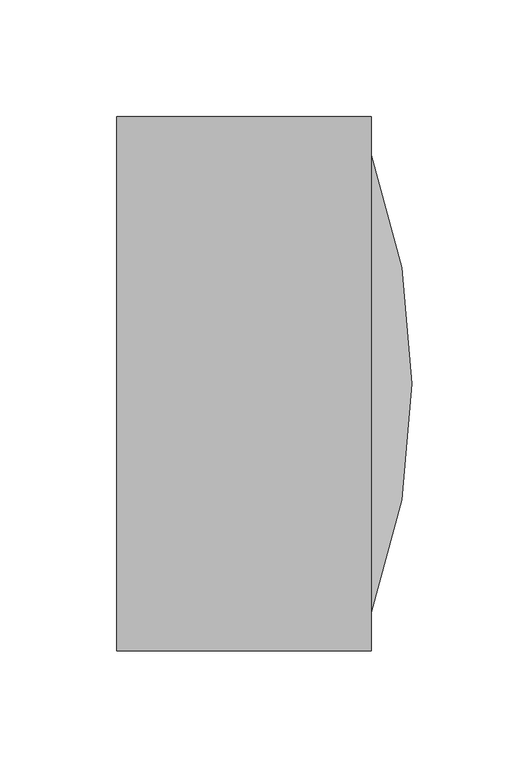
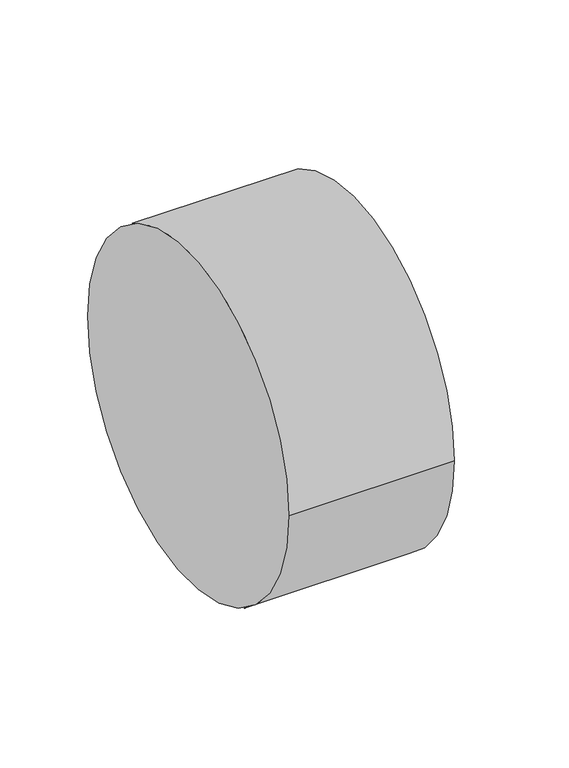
"""IFC4 building model written with IfcOpenShell, lengths in millimetres: pipe fitting geometry, Pipelife - Pragma +ID - Korek kanalizacyjny : Pipelife - Pragma +ID - Korek kanalizacyjny."""

from ifc_helpers import new_model, si_unit, point, frame, origin, origin_2d, place, context, project, spatial, circle_curve, ellipse_curve, trimmed, segment, composite_curve, outline, extrude, source, transform, mapped, element, save
from ifc_brep_helpers import plane_surface, revolved_surface, advanced_brep


def pipe_fitting_c3827e3d(model_context):
    return source(origin(), model_context, "Body", "SolidModel", [
        extrude(outline(composite_curve([segment(trimmed(circle_curve(origin_2d(), 114.5), [point((-114.5, 0.0))], [point((114.5, 0.0))], False, "CARTESIAN"), True, "CONTINUOUS"), segment(trimmed(circle_curve(origin_2d(), 114.5), [point((114.5, 0.0))], [point((-114.5, 0.0))], False, "CARTESIAN"), True, "CONTINUOUS")], self_intersect=False)), frame((-105.0, 0.0, 0.0), z_axis=(1.0, 0.0, 0.0), x_axis=(0.0, 1.0, 0.0)), (0.0, 0.0, 1.0), 109.0),
        advanced_brep(
        [(4.0, 0.0, 0.0), (4.0, 98.0, 0.0), (4.0, -98.0, 0.0), (21.4367576, 0.0, 0.0)],
        [
            (0, 1),
            (1, 2, circle_curve(frame((4.0, 0.0, 0.0), z_axis=(-1.0, 0.0, 0.0), x_axis=(0.0, 1.0, 0.0)), 98.0)),
            (2, 0),
            (2, 1, circle_curve(frame((4.0, 0.0, 0.0), z_axis=(-1.0, 0.0, 0.0), x_axis=(0.0, 1.0, 0.0)), 98.0)),
            (1, 3, circle_curve(frame((-262.6768589, 0.0, 0.0), z_axis=(0.0, 0.0, -1.0), x_axis=(1.0, 0.0, 0.0)), 284.1136165)),
            (3, 2, circle_curve(frame((-262.6768589, 0.0, 0.0), z_axis=(0.0, 0.0, -1.0), x_axis=(1.0, 0.0, 0.0)), 284.1136165)),
        ],
        [
            plane_surface(frame((4.0, 0.0, 0.0), z_axis=(-1.0, 0.0, 0.0), x_axis=(0.0, 1.0, 0.0))),
            revolved_surface(trimmed(ellipse_curve(frame((-262.6768589, 0.0, 0.0), z_axis=(0.0, 0.0, 1.0), x_axis=(1.0, 0.0, 0.0)), 284.1136165, 284.1136165), [point((21.4367576, 0.0, 0.0))], [point((4.0, 98.0, 0.0))], True, "CARTESIAN"), (28.8992594, 0.0, 0.0), (-1.0, 0.0, 0.0)),
        ],
        [
            (0, [[1, 2, 3]]),
            (0, [[-3, 4, -1]]),
            (1, [[-2, 5, 6]]),
            (1, [[-4, -6, -5]]),
        ],
    ),
    ])


if __name__ == "__main__":
    model = new_model("IFC4")
    model_context = context("Model", 3, world=origin())
    ifc_project = project(units=[si_unit("LENGTHUNIT", "METRE", prefix="MILLI")], contexts=[model_context])
    site = spatial("IfcSite", under=ifc_project)
    building = spatial("IfcBuilding", under=site)
    placement = place(None, origin())
    pipe_fitting_shape = pipe_fitting_c3827e3d(model_context)
    element("IfcPipeFitting", 1, ObjectType="Pipelife - Pragma +ID - Korek kanalizacyjny : Pipelife - Pragma +ID - Korek kanalizacyjny", at=placement, inside=building, context=model_context, shape_type="MappedRepresentation", body=[
        mapped(pipe_fitting_shape, transform((0.0, 0.0, 0.0), x_axis=(1.0, 0.0, 0.0), y_axis=(0.0, 1.0, 0.0), z_axis=(0.0, 0.0, 1.0))),
    ])
    save(model, "model.ifc")
